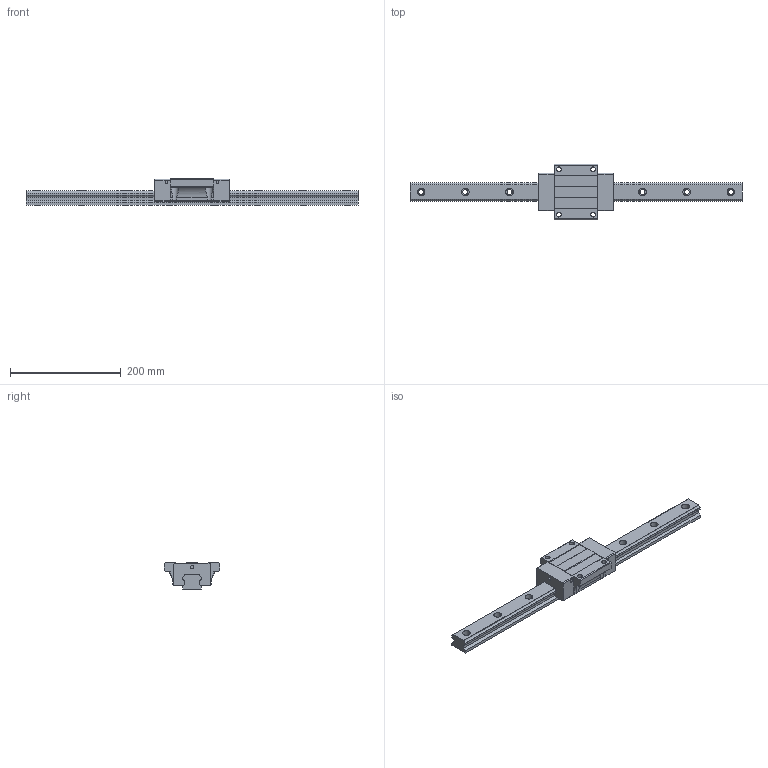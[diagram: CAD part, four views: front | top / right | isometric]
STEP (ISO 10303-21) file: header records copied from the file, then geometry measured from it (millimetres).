
FILE_DESCRIPTION (( 'STEP AP203' ), '1' );
FILE_NAME ('TRH35FN-DZ.STEP', '2024-07-04T06:29:15', ( '' ), ( '' ), 'SwSTEP 2.0', 'SolidWorks 2022', '' );
FILE_SCHEMA (( 'CONFIG_CONTROL_DESIGN' ));
Length unit declared in the file: millimetre
Products named in the file (1): TRH35FN-DZ
Bounding box: 600 x 100 x 48 mm (x, y, z)
Volume: 771438.3 mm3; surface area: 129783.2 mm2
Topology: 2 solids, 2 shells, 212 faces, 580 edges, 386 vertices
Faces by surface type: cylinder 112, plane 100
Entity records: 7449 total; most frequent: CARTESIAN_POINT 1801, DIRECTION 1174, ORIENTED_EDGE 1160, EDGE_CURVE 580, AXIS2_PLACEMENT_3D 409, VERTEX_POINT 386, VECTOR 356, LINE 356
